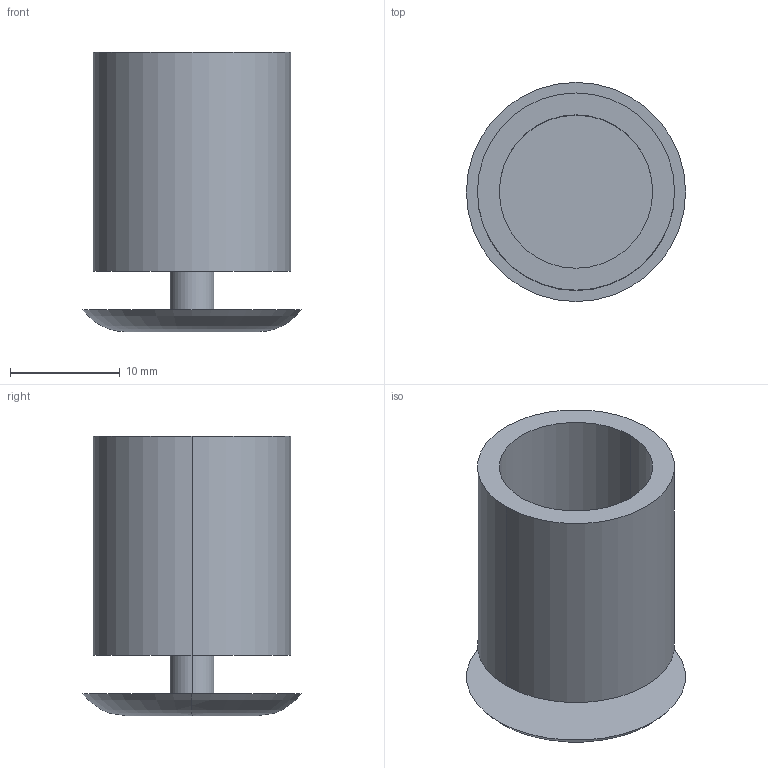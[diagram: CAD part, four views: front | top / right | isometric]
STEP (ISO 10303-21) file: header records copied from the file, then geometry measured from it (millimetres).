
FILE_DESCRIPTION (( 'STEP AP214' ), '1' );
FILE_NAME ('FGAK 18.step', '2017-04-05T07:36:47', ( '' ), ( '' ), 'SwSTEP 2.0', 'SolidWorks 2015', '' );
FILE_SCHEMA (( 'AUTOMOTIVE_DESIGN' ));
Length unit declared in the file: millimetre
Products named in the file (1): FGAK 18
Bounding box: 20 x 20 x 25.5 mm (x, y, z)
Volume: 2853.9 mm3; surface area: 3115.3 mm2
Topology: 1 solids, 1 shells, 13 faces, 24 edges, 16 vertices
Faces by surface type: cylinder 6, plane 5, torus 2
Entity records: 370 total; most frequent: DIRECTION 70, CARTESIAN_POINT 54, ORIENTED_EDGE 48, AXIS2_PLACEMENT_3D 32, EDGE_CURVE 24, CIRCLE 18, VERTEX_POINT 16, EDGE_LOOP 16
